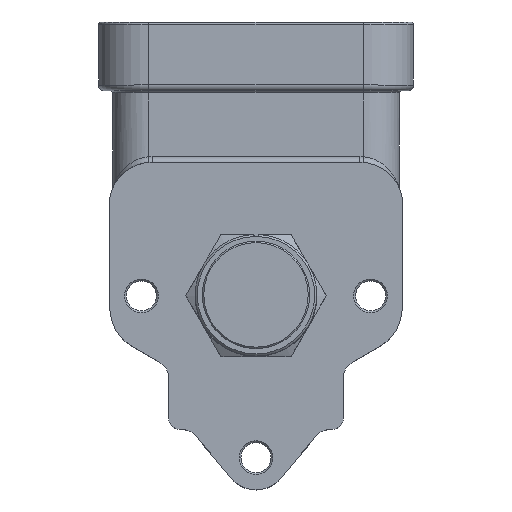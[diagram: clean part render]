
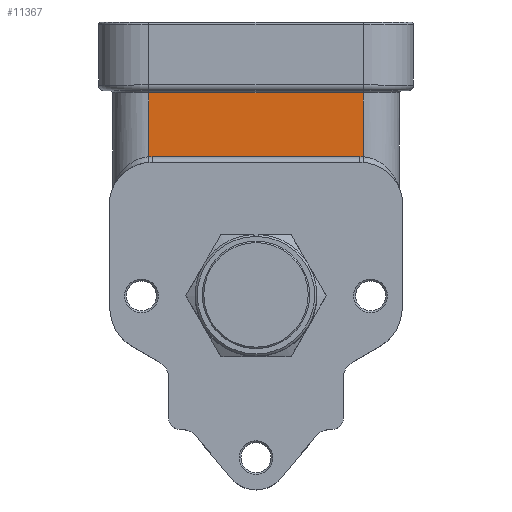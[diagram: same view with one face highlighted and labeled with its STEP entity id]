
A CAD part, top view. The second image highlights one B-rep face of the part: STEP entity #11367.
In plain terms, the highlighted planar face has unit normal (0, 0, 1).
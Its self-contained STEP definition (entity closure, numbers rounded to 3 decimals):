
#88 = CIRCLE ( 'NONE', #188, 6.8 ) ;
#188 = AXIS2_PLACEMENT_3D ( 'NONE', #4070, #12660, #5308 ) ;
#392 = EDGE_LOOP ( 'NONE', ( #2198, #8477, #12264, #6936, #9512, #9870 ) ) ;
#926 = DIRECTION ( 'NONE',  ( 0., 0., -1. ) ) ;
#1431 = PLANE ( 'NONE',  #13696 ) ;
#1825 = AXIS2_PLACEMENT_3D ( 'NONE', #8288, #926, #9529 ) ;
#2194 = EDGE_CURVE ( 'NONE', #12152, #5965, #4668, .T. ) ;
#2198 = ORIENTED_EDGE ( 'NONE', *, *, #9665, .F. ) ;
#2326 = CARTESIAN_POINT ( 'NONE',  ( -14.5, 19.45, -2.25 ) ) ;
#2538 = CIRCLE ( 'NONE', #1825, 6.8 ) ;
#3216 = VECTOR ( 'NONE', #10541, 1000. ) ;
#4070 = CARTESIAN_POINT ( 'NONE',  ( -14.5, 12.65, -2.25 ) ) ;
#4493 = VERTEX_POINT ( 'NONE', #8379 ) ;
#4668 = LINE ( 'NONE', #11361, #10821 ) ;
#5153 = DIRECTION ( 'NONE',  ( -1., 0., 0. ) ) ;
#5243 = DIRECTION ( 'NONE',  ( -1., 0., 0. ) ) ;
#5308 = DIRECTION ( 'NONE',  ( -1., 0., 0. ) ) ;
#5965 = VERTEX_POINT ( 'NONE', #10626 ) ;
#6451 = LINE ( 'NONE', #15408, #3216 ) ;
#6557 = EDGE_CURVE ( 'NONE', #10817, #4493, #12448, .T. ) ;
#6936 = ORIENTED_EDGE ( 'NONE', *, *, #11459, .T. ) ;
#6997 = LINE ( 'NONE', #14945, #10258 ) ;
#7410 = EDGE_CURVE ( 'NONE', #5965, #13463, #6451, .T. ) ;
#7658 = CARTESIAN_POINT ( 'NONE',  ( 15., 19.432, -2.25 ) ) ;
#8288 = CARTESIAN_POINT ( 'NONE',  ( 14.5, 12.65, -2.25 ) ) ;
#8379 = CARTESIAN_POINT ( 'NONE',  ( 14.5, 19.45, -2.25 ) ) ;
#8477 = ORIENTED_EDGE ( 'NONE', *, *, #2194, .T. ) ;
#8819 = DIRECTION ( 'NONE',  ( 0., -1., 0. ) ) ;
#8948 = CARTESIAN_POINT ( 'NONE',  ( -15., 19.432, -2.25 ) ) ;
#9512 = ORIENTED_EDGE ( 'NONE', *, *, #6557, .T. ) ;
#9529 = DIRECTION ( 'NONE',  ( -1., 0., 0. ) ) ;
#9578 = VECTOR ( 'NONE', #11394, 1000. ) ;
#9665 = EDGE_CURVE ( 'NONE', #12152, #13421, #6997, .T. ) ;
#9870 = ORIENTED_EDGE ( 'NONE', *, *, #14206, .T. ) ;
#10027 = CARTESIAN_POINT ( 'NONE',  ( 15., 28.65, -2.25 ) ) ;
#10258 = VECTOR ( 'NONE', #8819, 1000. ) ;
#10381 = CARTESIAN_POINT ( 'NONE',  ( 15., 28.35, -2.25 ) ) ;
#10541 = DIRECTION ( 'NONE',  ( 0., -1., 0. ) ) ;
#10626 = CARTESIAN_POINT ( 'NONE',  ( -15., 28.35, -2.25 ) ) ;
#10817 = VERTEX_POINT ( 'NONE', #2326 ) ;
#10821 = VECTOR ( 'NONE', #5243, 1000. ) ;
#11085 = FACE_OUTER_BOUND ( 'NONE', #392, .T. ) ;
#11361 = CARTESIAN_POINT ( 'NONE',  ( -15., 28.35, -2.25 ) ) ;
#11367 = ADVANCED_FACE ( 'NONE', ( #11085 ), #1431, .F. ) ;
#11394 = DIRECTION ( 'NONE',  ( 1., 0., 0. ) ) ;
#11459 = EDGE_CURVE ( 'NONE', #13463, #10817, #88, .T. ) ;
#12152 = VERTEX_POINT ( 'NONE', #10381 ) ;
#12264 = ORIENTED_EDGE ( 'NONE', *, *, #7410, .T. ) ;
#12448 = LINE ( 'NONE', #13868, #9578 ) ;
#12506 = DIRECTION ( 'NONE',  ( 0., 0., -1. ) ) ;
#12660 = DIRECTION ( 'NONE',  ( 0., 0., -1. ) ) ;
#13421 = VERTEX_POINT ( 'NONE', #7658 ) ;
#13463 = VERTEX_POINT ( 'NONE', #8948 ) ;
#13696 = AXIS2_PLACEMENT_3D ( 'NONE', #10027, #12506, #5153 ) ;
#13868 = CARTESIAN_POINT ( 'NONE',  ( 15., 19.45, -2.25 ) ) ;
#14206 = EDGE_CURVE ( 'NONE', #4493, #13421, #2538, .T. ) ;
#14945 = CARTESIAN_POINT ( 'NONE',  ( 15., 28.65, -2.25 ) ) ;
#15408 = CARTESIAN_POINT ( 'NONE',  ( -15., 28.65, -2.25 ) ) ;
